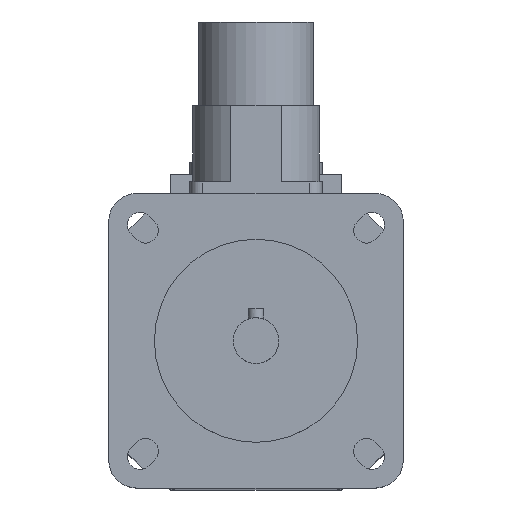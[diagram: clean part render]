
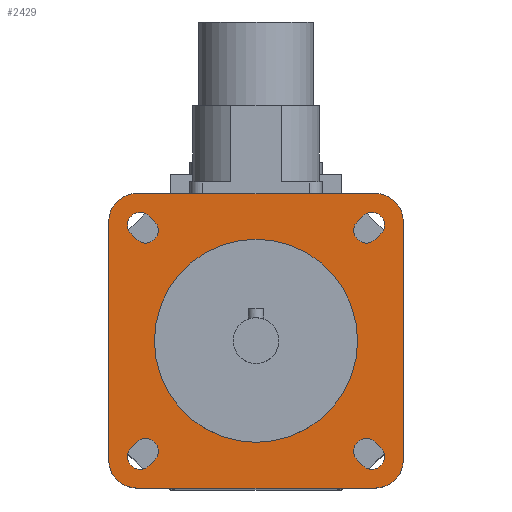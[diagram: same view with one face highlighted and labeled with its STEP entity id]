
A CAD part, top view. The second image highlights one B-rep face of the part: STEP entity #2429.
In plain terms, the highlighted planar face has unit normal (0, 0, 1).
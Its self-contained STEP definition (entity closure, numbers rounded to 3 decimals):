
#28=FACE_BOUND('',#427,.T.);
#29=FACE_BOUND('',#428,.T.);
#30=FACE_BOUND('',#429,.T.);
#31=FACE_BOUND('',#430,.T.);
#32=FACE_BOUND('',#431,.T.);
#47=CIRCLE('',#2525,20.);
#84=CIRCLE('',#2589,2.5);
#88=CIRCLE('',#2596,2.5);
#89=CIRCLE('',#2599,2.5);
#90=CIRCLE('',#2602,2.5);
#100=CIRCLE('',#2617,2.5);
#101=CIRCLE('',#2620,2.5);
#102=CIRCLE('',#2623,2.5);
#103=CIRCLE('',#2626,2.5);
#104=CIRCLE('',#2628,5.5);
#105=CIRCLE('',#2630,5.5);
#106=CIRCLE('',#2632,5.5);
#107=CIRCLE('',#2634,5.5);
#282=FACE_OUTER_BOUND('',#426,.T.);
#426=EDGE_LOOP('',(#1862,#1863,#1864,#1865,#1866,#1867,#1868,#1869));
#427=EDGE_LOOP('',(#1870));
#428=EDGE_LOOP('',(#1871,#1872,#1873,#1874));
#429=EDGE_LOOP('',(#1875,#1876,#1877,#1878));
#430=EDGE_LOOP('',(#1879,#1880,#1881,#1882));
#431=EDGE_LOOP('',(#1883,#1884,#1885,#1886));
#576=LINE('',#3759,#807);
#584=LINE('',#3783,#815);
#588=LINE('',#3793,#819);
#592=LINE('',#3803,#823);
#608=LINE('',#3854,#839);
#610=LINE('',#3860,#841);
#612=LINE('',#3866,#843);
#614=LINE('',#3872,#845);
#623=LINE('',#3900,#854);
#624=LINE('',#3901,#855);
#625=LINE('',#3902,#856);
#626=LINE('',#3903,#857);
#807=VECTOR('',#2980,1.5);
#815=VECTOR('',#3002,1.5);
#819=VECTOR('',#3012,1.5);
#823=VECTOR('',#3022,1.5);
#839=VECTOR('',#3068,1.5);
#841=VECTOR('',#3076,1.5);
#843=VECTOR('',#3084,1.5);
#845=VECTOR('',#3092,1.5);
#854=VECTOR('',#3123,47.);
#855=VECTOR('',#3124,47.);
#856=VECTOR('',#3125,47.);
#857=VECTOR('',#3126,47.);
#992=VERTEX_POINT('',#3580);
#1057=VERTEX_POINT('',#3756);
#1058=VERTEX_POINT('',#3758);
#1059=VERTEX_POINT('',#3762);
#1066=VERTEX_POINT('',#3780);
#1067=VERTEX_POINT('',#3782);
#1068=VERTEX_POINT('',#3786);
#1069=VERTEX_POINT('',#3790);
#1070=VERTEX_POINT('',#3792);
#1071=VERTEX_POINT('',#3796);
#1072=VERTEX_POINT('',#3800);
#1073=VERTEX_POINT('',#3802);
#1074=VERTEX_POINT('',#3806);
#1093=VERTEX_POINT('',#3852);
#1094=VERTEX_POINT('',#3858);
#1095=VERTEX_POINT('',#3864);
#1096=VERTEX_POINT('',#3870);
#1097=VERTEX_POINT('',#3876);
#1098=VERTEX_POINT('',#3878);
#1099=VERTEX_POINT('',#3882);
#1100=VERTEX_POINT('',#3884);
#1101=VERTEX_POINT('',#3888);
#1102=VERTEX_POINT('',#3890);
#1103=VERTEX_POINT('',#3894);
#1104=VERTEX_POINT('',#3896);
#1234=EDGE_CURVE('',#992,#992,#47,.T.);
#1320=EDGE_CURVE('',#1058,#1057,#576,.T.);
#1323=EDGE_CURVE('',#1057,#1059,#84,.T.);
#1332=EDGE_CURVE('',#1067,#1066,#584,.T.);
#1335=EDGE_CURVE('',#1066,#1068,#88,.T.);
#1337=EDGE_CURVE('',#1070,#1069,#588,.T.);
#1340=EDGE_CURVE('',#1069,#1071,#89,.T.);
#1342=EDGE_CURVE('',#1073,#1072,#592,.T.);
#1345=EDGE_CURVE('',#1072,#1074,#90,.T.);
#1368=EDGE_CURVE('',#1071,#1093,#608,.T.);
#1369=EDGE_CURVE('',#1093,#1070,#100,.T.);
#1371=EDGE_CURVE('',#1068,#1094,#610,.T.);
#1372=EDGE_CURVE('',#1094,#1067,#101,.T.);
#1374=EDGE_CURVE('',#1074,#1095,#612,.T.);
#1375=EDGE_CURVE('',#1095,#1073,#102,.T.);
#1377=EDGE_CURVE('',#1059,#1096,#614,.T.);
#1378=EDGE_CURVE('',#1096,#1058,#103,.T.);
#1380=EDGE_CURVE('',#1098,#1097,#104,.T.);
#1383=EDGE_CURVE('',#1100,#1099,#105,.T.);
#1386=EDGE_CURVE('',#1102,#1101,#106,.T.);
#1389=EDGE_CURVE('',#1104,#1103,#107,.T.);
#1391=EDGE_CURVE('',#1097,#1104,#623,.T.);
#1392=EDGE_CURVE('',#1103,#1102,#624,.T.);
#1393=EDGE_CURVE('',#1101,#1100,#625,.T.);
#1394=EDGE_CURVE('',#1099,#1098,#626,.T.);
#1862=ORIENTED_EDGE('',*,*,#1391,.T.);
#1863=ORIENTED_EDGE('',*,*,#1389,.T.);
#1864=ORIENTED_EDGE('',*,*,#1392,.T.);
#1865=ORIENTED_EDGE('',*,*,#1386,.T.);
#1866=ORIENTED_EDGE('',*,*,#1393,.T.);
#1867=ORIENTED_EDGE('',*,*,#1383,.T.);
#1868=ORIENTED_EDGE('',*,*,#1394,.T.);
#1869=ORIENTED_EDGE('',*,*,#1380,.T.);
#1870=ORIENTED_EDGE('',*,*,#1234,.T.);
#1871=ORIENTED_EDGE('',*,*,#1368,.T.);
#1872=ORIENTED_EDGE('',*,*,#1369,.T.);
#1873=ORIENTED_EDGE('',*,*,#1337,.T.);
#1874=ORIENTED_EDGE('',*,*,#1340,.T.);
#1875=ORIENTED_EDGE('',*,*,#1371,.T.);
#1876=ORIENTED_EDGE('',*,*,#1372,.T.);
#1877=ORIENTED_EDGE('',*,*,#1332,.T.);
#1878=ORIENTED_EDGE('',*,*,#1335,.T.);
#1879=ORIENTED_EDGE('',*,*,#1374,.T.);
#1880=ORIENTED_EDGE('',*,*,#1375,.T.);
#1881=ORIENTED_EDGE('',*,*,#1342,.T.);
#1882=ORIENTED_EDGE('',*,*,#1345,.T.);
#1883=ORIENTED_EDGE('',*,*,#1377,.T.);
#1884=ORIENTED_EDGE('',*,*,#1378,.T.);
#1885=ORIENTED_EDGE('',*,*,#1320,.T.);
#1886=ORIENTED_EDGE('',*,*,#1323,.T.);
#2328=PLANE('',#2635);
#2429=ADVANCED_FACE('',(#282,#28,#29,#30,#31,#32),#2328,.T.);
#2525=AXIS2_PLACEMENT_3D('',#3581,#2805,#2806);
#2589=AXIS2_PLACEMENT_3D('',#3764,#2985,#2986);
#2596=AXIS2_PLACEMENT_3D('',#3788,#3007,#3008);
#2599=AXIS2_PLACEMENT_3D('',#3798,#3017,#3018);
#2602=AXIS2_PLACEMENT_3D('',#3808,#3027,#3028);
#2617=AXIS2_PLACEMENT_3D('',#3856,#3071,#3072);
#2620=AXIS2_PLACEMENT_3D('',#3862,#3079,#3080);
#2623=AXIS2_PLACEMENT_3D('',#3868,#3087,#3088);
#2626=AXIS2_PLACEMENT_3D('',#3874,#3095,#3096);
#2628=AXIS2_PLACEMENT_3D('',#3879,#3100,#3101);
#2630=AXIS2_PLACEMENT_3D('',#3885,#3106,#3107);
#2632=AXIS2_PLACEMENT_3D('',#3891,#3112,#3113);
#2634=AXIS2_PLACEMENT_3D('',#3897,#3118,#3119);
#2635=AXIS2_PLACEMENT_3D('',#3899,#3121,#3122);
#2805=DIRECTION('center_axis',(0.,0.,-1.));
#2806=DIRECTION('ref_axis',(-1.,0.,0.));
#2980=DIRECTION('',(-0.707,-0.707,0.));
#2985=DIRECTION('center_axis',(0.,0.,-1.));
#2986=DIRECTION('ref_axis',(0.707,-0.707,0.));
#3002=DIRECTION('',(-0.707,0.707,0.));
#3007=DIRECTION('center_axis',(0.,0.,-1.));
#3008=DIRECTION('ref_axis',(-0.707,-0.707,0.));
#3012=DIRECTION('',(-0.707,-0.707,0.));
#3017=DIRECTION('center_axis',(0.,0.,-1.));
#3018=DIRECTION('ref_axis',(0.707,-0.707,0.));
#3022=DIRECTION('',(-0.707,0.707,0.));
#3027=DIRECTION('center_axis',(0.,0.,-1.));
#3028=DIRECTION('ref_axis',(-0.707,-0.707,0.));
#3068=DIRECTION('',(0.707,0.707,0.));
#3071=DIRECTION('center_axis',(0.,0.,-1.));
#3072=DIRECTION('ref_axis',(-0.707,0.707,0.));
#3076=DIRECTION('',(0.707,-0.707,0.));
#3079=DIRECTION('center_axis',(0.,0.,-1.));
#3080=DIRECTION('ref_axis',(0.707,0.707,0.));
#3084=DIRECTION('',(0.707,-0.707,0.));
#3087=DIRECTION('center_axis',(0.,0.,-1.));
#3088=DIRECTION('ref_axis',(0.707,0.707,0.));
#3092=DIRECTION('',(0.707,0.707,0.));
#3095=DIRECTION('center_axis',(0.,0.,-1.));
#3096=DIRECTION('ref_axis',(-0.707,0.707,0.));
#3100=DIRECTION('center_axis',(0.,0.,1.));
#3101=DIRECTION('ref_axis',(1.,0.,0.));
#3106=DIRECTION('center_axis',(0.,0.,1.));
#3107=DIRECTION('ref_axis',(0.,-1.,0.));
#3112=DIRECTION('center_axis',(0.,0.,1.));
#3113=DIRECTION('ref_axis',(-1.,0.,0.));
#3118=DIRECTION('center_axis',(0.,0.,1.));
#3119=DIRECTION('ref_axis',(0.,1.,0.));
#3121=DIRECTION('center_axis',(0.,0.,1.));
#3122=DIRECTION('ref_axis',(1.,0.,0.));
#3123=DIRECTION('',(-1.,0.,0.));
#3124=DIRECTION('',(0.,-1.,0.));
#3125=DIRECTION('',(1.,0.,0.));
#3126=DIRECTION('',(0.,1.,0.));
#3580=CARTESIAN_POINT('',(20.,0.,158.5));
#3581=CARTESIAN_POINT('Origin',(0.,0.,158.5));
#3756=CARTESIAN_POINT('',(-21.036,-24.572,158.5));
#3758=CARTESIAN_POINT('',(-19.976,-23.511,158.5));
#3759=CARTESIAN_POINT('',(-9.634,-13.17,158.5));
#3762=CARTESIAN_POINT('',(-24.572,-21.036,158.5));
#3764=CARTESIAN_POINT('Origin',(-22.804,-22.804,158.5));
#3780=CARTESIAN_POINT('',(-24.572,21.036,158.5));
#3782=CARTESIAN_POINT('',(-23.511,19.976,158.5));
#3783=CARTESIAN_POINT('',(-13.17,9.634,158.5));
#3786=CARTESIAN_POINT('',(-21.036,24.572,158.5));
#3788=CARTESIAN_POINT('Origin',(-22.804,22.804,158.5));
#3790=CARTESIAN_POINT('',(23.511,19.976,158.5));
#3792=CARTESIAN_POINT('',(24.572,21.036,158.5));
#3793=CARTESIAN_POINT('',(12.64,9.104,158.5));
#3796=CARTESIAN_POINT('',(19.976,23.511,158.5));
#3798=CARTESIAN_POINT('Origin',(21.744,21.744,158.5));
#3800=CARTESIAN_POINT('',(19.976,-23.511,158.5));
#3802=CARTESIAN_POINT('',(21.036,-24.572,158.5));
#3803=CARTESIAN_POINT('',(9.104,-12.64,158.5));
#3806=CARTESIAN_POINT('',(23.511,-19.976,158.5));
#3808=CARTESIAN_POINT('Origin',(21.744,-21.744,158.5));
#3852=CARTESIAN_POINT('',(21.036,24.572,158.5));
#3854=CARTESIAN_POINT('',(9.634,13.17,158.5));
#3856=CARTESIAN_POINT('Origin',(22.804,22.804,158.5));
#3858=CARTESIAN_POINT('',(-19.976,23.511,158.5));
#3860=CARTESIAN_POINT('',(-9.104,12.64,158.5));
#3862=CARTESIAN_POINT('Origin',(-21.744,21.744,158.5));
#3864=CARTESIAN_POINT('',(24.572,-21.036,158.5));
#3866=CARTESIAN_POINT('',(13.17,-9.634,158.5));
#3868=CARTESIAN_POINT('Origin',(22.804,-22.804,158.5));
#3870=CARTESIAN_POINT('',(-23.511,-19.976,158.5));
#3872=CARTESIAN_POINT('',(-12.64,-9.104,158.5));
#3874=CARTESIAN_POINT('Origin',(-21.744,-21.744,158.5));
#3876=CARTESIAN_POINT('',(23.5,29.,158.5));
#3878=CARTESIAN_POINT('',(29.,23.5,158.5));
#3879=CARTESIAN_POINT('Origin',(23.5,23.5,158.5));
#3882=CARTESIAN_POINT('',(29.,-23.5,158.5));
#3884=CARTESIAN_POINT('',(23.5,-29.,158.5));
#3885=CARTESIAN_POINT('Origin',(23.5,-23.5,158.5));
#3888=CARTESIAN_POINT('',(-23.5,-29.,158.5));
#3890=CARTESIAN_POINT('',(-29.,-23.5,158.5));
#3891=CARTESIAN_POINT('Origin',(-23.5,-23.5,158.5));
#3894=CARTESIAN_POINT('',(-29.,23.5,158.5));
#3896=CARTESIAN_POINT('',(-23.5,29.,158.5));
#3897=CARTESIAN_POINT('Origin',(-23.5,23.5,158.5));
#3899=CARTESIAN_POINT('Origin',(0.,0.,
158.5));
#3900=CARTESIAN_POINT('',(23.5,29.,158.5));
#3901=CARTESIAN_POINT('',(-29.,23.5,158.5));
#3902=CARTESIAN_POINT('',(-23.5,-29.,158.5));
#3903=CARTESIAN_POINT('',(29.,-23.5,158.5));
